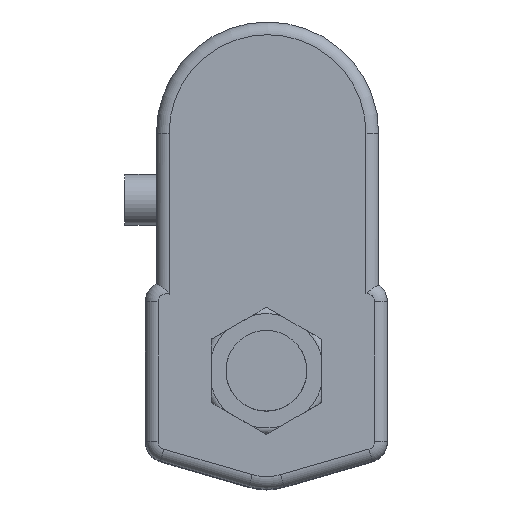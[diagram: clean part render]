
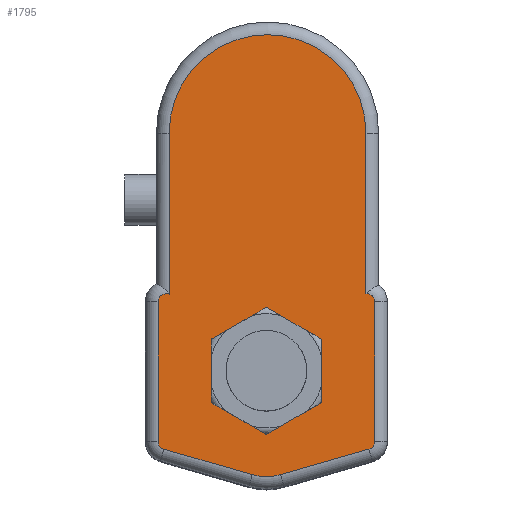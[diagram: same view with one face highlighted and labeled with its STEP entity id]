
A CAD part, top view. The second image highlights one B-rep face of the part: STEP entity #1795.
In plain terms, the highlighted planar face has unit normal (0, 0, 1).
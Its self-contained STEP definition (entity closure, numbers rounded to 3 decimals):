
#1 = CARTESIAN_POINT ( 'NONE',  ( 31.6, -22.211, 127.9 ) ) ;
#2 = DIRECTION ( 'NONE',  ( 1., 0., 0. ) ) ;
#6 = CARTESIAN_POINT ( 'NONE',  ( -31.6, 21.81, 127.9 ) ) ;
#12 = DIRECTION ( 'NONE',  ( 0., 0., 1. ) ) ;
#443 = FACE_BOUND ( 'NONE', #1899, .T. ) ;
#448 = FACE_OUTER_BOUND ( 'NONE', #1935, .T. ) ;
#604 = AXIS2_PLACEMENT_3D ( 'NONE', #2590, #2591, #2592 ) ;
#637 = AXIS2_PLACEMENT_3D ( 'NONE', #2884, #2891, #2892 ) ;
#651 = AXIS2_PLACEMENT_3D ( 'NONE', #6, #12, #2 ) ;
#652 = AXIS2_PLACEMENT_3D ( 'NONE', #2943, #2987, #2986 ) ;
#656 = AXIS2_PLACEMENT_3D ( 'NONE', #1, #2995, #2996 ) ;
#657 = AXIS2_PLACEMENT_3D ( 'NONE', #2991, #2998, #2999 ) ;
#832 = AXIS2_PLACEMENT_3D ( 'NONE', #3834, #3850, #3851 ) ;
#842 = ORIENTED_EDGE ( 'NONE', *, *, #1607, .T. ) ;
#843 = ORIENTED_EDGE ( 'NONE', *, *, #1577, .T. ) ;
#844 = ORIENTED_EDGE ( 'NONE', *, *, #1606, .T. ) ;
#845 = ORIENTED_EDGE ( 'NONE', *, *, #1513, .T. ) ;
#846 = ORIENTED_EDGE ( 'NONE', *, *, #1567, .T. ) ;
#847 = ORIENTED_EDGE ( 'NONE', *, *, #1522, .T. ) ;
#848 = ORIENTED_EDGE ( 'NONE', *, *, #1602, .T. ) ;
#849 = ORIENTED_EDGE ( 'NONE', *, *, #1608, .T. ) ;
#850 = ORIENTED_EDGE ( 'NONE', *, *, #1552, .F. ) ;
#851 = ORIENTED_EDGE ( 'NONE', *, *, #1597, .F. ) ;
#852 = ORIENTED_EDGE ( 'NONE', *, *, #1599, .F. ) ;
#853 = ORIENTED_EDGE ( 'NONE', *, *, #1576, .F. ) ;
#854 = ORIENTED_EDGE ( 'NONE', *, *, #1613, .F. ) ;
#855 = ORIENTED_EDGE ( 'NONE', *, *, #1583, .F. ) ;
#1121 = ORIENTED_EDGE ( 'NONE', *, *, #1595, .T. ) ;
#1122 = ORIENTED_EDGE ( 'NONE', *, *, #1544, .T. ) ;
#1123 = ORIENTED_EDGE ( 'NONE', *, *, #1519, .T. ) ;
#1233 = VECTOR ( 'NONE', #2576, 1000. ) ;
#1245 = LINE ( 'NONE', #2575, #1233 ) ;
#1264 = LINE ( 'NONE', #2599, #1270 ) ;
#1266 = CIRCLE ( 'NONE', #604, 2.5 ) ;
#1270 = VECTOR ( 'NONE', #2600, 1000. ) ;
#1286 = LINE ( 'NONE', #2708, #1287 ) ;
#1287 = VECTOR ( 'NONE', #2709, 1000. ) ;
#1294 = VECTOR ( 'NONE', #2735, 1000. ) ;
#1295 = LINE ( 'NONE', #2754, #1312 ) ;
#1302 = LINE ( 'NONE', #2712, #1294 ) ;
#1312 = VECTOR ( 'NONE', #2755, 1000. ) ;
#1329 = CIRCLE ( 'NONE', #637, 2.5 ) ;
#1332 = LINE ( 'NONE', #2918, #1342 ) ;
#1338 = LINE ( 'NONE', #2915, #1339 ) ;
#1339 = VECTOR ( 'NONE', #2916, 1000. ) ;
#1341 = LINE ( 'NONE', #2934, #1350 ) ;
#1342 = VECTOR ( 'NONE', #2919, 1000. ) ;
#1350 = VECTOR ( 'NONE', #2935, 1000. ) ;
#1370 = LINE ( 'NONE', #2956, #1376 ) ;
#1371 = CIRCLE ( 'NONE', #651, 2.5 ) ;
#1372 = LINE ( 'NONE', #1800, #1373 ) ;
#1373 = VECTOR ( 'NONE', #1801, 1000. ) ;
#1376 = VECTOR ( 'NONE', #1804, 1000. ) ;
#1381 = LINE ( 'NONE', #3000, #1385 ) ;
#1382 = CIRCLE ( 'NONE', #652, 31. ) ;
#1385 = VECTOR ( 'NONE', #3001, 1000. ) ;
#1386 = CIRCLE ( 'NONE', #656, 2.5 ) ;
#1387 = LINE ( 'NONE', #3014, #1392 ) ;
#1388 = CIRCLE ( 'NONE', #657, 16. ) ;
#1392 = VECTOR ( 'NONE', #3015, 1000. ) ;
#1513 = EDGE_CURVE ( 'NONE', #2125, #2190, #1245, .T. ) ;
#1519 = EDGE_CURVE ( 'NONE', #2175, #2161, #1266, .T. ) ;
#1522 = EDGE_CURVE ( 'NONE', #2192, #2137, #1264, .T. ) ;
#1534 = EDGE_CURVE ( 'NONE', #2161, #2201, #1286, .T. ) ;
#1544 = EDGE_CURVE ( 'NONE', #2189, #2175, #1302, .T. ) ;
#1552 = EDGE_CURVE ( 'NONE', #2130, #2150, #1295, .T. ) ;
#1567 = EDGE_CURVE ( 'NONE', #2190, #2192, #1329, .T. ) ;
#1576 = EDGE_CURVE ( 'NONE', #2195, #2122, #1338, .T. ) ;
#1577 = EDGE_CURVE ( 'NONE', #2174, #2185, #1332, .T. ) ;
#1583 = EDGE_CURVE ( 'NONE', #2150, #2184, #1341, .T. ) ;
#1595 = EDGE_CURVE ( 'NONE', #2140, #2189, #1371, .T. ) ;
#1597 = EDGE_CURVE ( 'NONE', #2110, #2130, #1372, .T. ) ;
#1599 = EDGE_CURVE ( 'NONE', #2122, #2110, #1370, .T. ) ;
#1602 = EDGE_CURVE ( 'NONE', #2137, #2155, #1382, .T. ) ;
#1606 = EDGE_CURVE ( 'NONE', #2185, #2125, #1386, .T. ) ;
#1607 = EDGE_CURVE ( 'NONE', #2201, #2174, #1388, .T. ) ;
#1608 = EDGE_CURVE ( 'NONE', #2155, #2140, #1381, .T. ) ;
#1613 = EDGE_CURVE ( 'NONE', #2184, #2195, #1387, .T. ) ;
#1795 = ADVANCED_FACE ( 'NONE', ( #448, #443 ), #3849, .T. ) ;
#1800 = CARTESIAN_POINT ( 'NONE',  ( 0., -20., 127.9 ) ) ;
#1801 = DIRECTION ( 'NONE',  ( 0.866, 0.5, 0. ) ) ;
#1804 = DIRECTION ( 'NONE',  ( 0.866, -0.5, 0. ) ) ;
#1899 = EDGE_LOOP ( 'NONE', ( #850, #851, #852, #853, #854, #855 ) ) ;
#1935 = EDGE_LOOP ( 'NONE', ( #1121, #1122, #1123, #2108, #842, #843, #844, #845, #846, #847, #848, #849 ) ) ;
#2108 = ORIENTED_EDGE ( 'NONE', *, *, #1534, .T. ) ;
#2110 = VERTEX_POINT ( 'NONE', #3883 ) ;
#2122 = VERTEX_POINT ( 'NONE', #3886 ) ;
#2125 = VERTEX_POINT ( 'NONE', #3888 ) ;
#2130 = VERTEX_POINT ( 'NONE', #3892 ) ;
#2137 = VERTEX_POINT ( 'NONE', #3898 ) ;
#2140 = VERTEX_POINT ( 'NONE', #3901 ) ;
#2150 = VERTEX_POINT ( 'NONE', #3905 ) ;
#2155 = VERTEX_POINT ( 'NONE', #3910 ) ;
#2161 = VERTEX_POINT ( 'NONE', #3916 ) ;
#2174 = VERTEX_POINT ( 'NONE', #3929 ) ;
#2175 = VERTEX_POINT ( 'NONE', #3930 ) ;
#2184 = VERTEX_POINT ( 'NONE', #3939 ) ;
#2185 = VERTEX_POINT ( 'NONE', #3940 ) ;
#2189 = VERTEX_POINT ( 'NONE', #3944 ) ;
#2190 = VERTEX_POINT ( 'NONE', #3945 ) ;
#2192 = VERTEX_POINT ( 'NONE', #3947 ) ;
#2195 = VERTEX_POINT ( 'NONE', #3950 ) ;
#2201 = VERTEX_POINT ( 'NONE', #3955 ) ;
#2575 = CARTESIAN_POINT ( 'NONE',  ( 34.1, 21.81, 127.9 ) ) ;
#2576 = DIRECTION ( 'NONE',  ( 0., 1., 0. ) ) ;
#2590 = CARTESIAN_POINT ( 'NONE',  ( -31.6, -22.211, 127.9 ) ) ;
#2591 = DIRECTION ( 'NONE',  ( 0., 0., 1. ) ) ;
#2592 = DIRECTION ( 'NONE',  ( 1., 0., 0. ) ) ;
#2599 = CARTESIAN_POINT ( 'NONE',  ( 31.376, 21.81, 127.9 ) ) ;
#2600 = DIRECTION ( 'NONE',  ( 0., 1., 0. ) ) ;
#2708 = CARTESIAN_POINT ( 'NONE',  ( 14.312, -38.069, 127.9 ) ) ;
#2709 = DIRECTION ( 'NONE',  ( 0.961, -0.277, 0. ) ) ;
#2712 = CARTESIAN_POINT ( 'NONE',  ( -34.1, 21.81, 127.9 ) ) ;
#2735 = DIRECTION ( 'NONE',  ( 0., -1., 0. ) ) ;
#2754 = CARTESIAN_POINT ( 'NONE',  ( 17.321, -10., 127.9 ) ) ;
#2755 = DIRECTION ( 'NONE',  ( 0., 1., 0. ) ) ;
#2884 = CARTESIAN_POINT ( 'NONE',  ( 31.6, 21.81, 127.9 ) ) ;
#2891 = DIRECTION ( 'NONE',  ( 0., 0., 1. ) ) ;
#2892 = DIRECTION ( 'NONE',  ( 1., 0., 0. ) ) ;
#2915 = CARTESIAN_POINT ( 'NONE',  ( -17.321, 10., 127.9 ) ) ;
#2916 = DIRECTION ( 'NONE',  ( 0., -1., 0. ) ) ;
#2918 = CARTESIAN_POINT ( 'NONE',  ( 44.025, -21.226, 127.9 ) ) ;
#2919 = DIRECTION ( 'NONE',  ( 0.961, 0.277, 0. ) ) ;
#2934 = CARTESIAN_POINT ( 'NONE',  ( 17.321, 10., 127.9 ) ) ;
#2935 = DIRECTION ( 'NONE',  ( -0.866, 0.5, 0. ) ) ;
#2943 = CARTESIAN_POINT ( 'NONE',  ( 0.376, 74.902, 127.9 ) ) ;
#2956 = CARTESIAN_POINT ( 'NONE',  ( -17.321, -10., 127.9 ) ) ;
#2986 = DIRECTION ( 'NONE',  ( 1., 0., 0. ) ) ;
#2987 = DIRECTION ( 'NONE',  ( 0., 0., 1. ) ) ;
#2991 = CARTESIAN_POINT ( 'NONE',  ( 0., -17.283, 127.9 ) ) ;
#2995 = DIRECTION ( 'NONE',  ( 0., 0., 1. ) ) ;
#2996 = DIRECTION ( 'NONE',  ( 1., 0., 0. ) ) ;
#2998 = DIRECTION ( 'NONE',  ( 0., 0., 1. ) ) ;
#2999 = DIRECTION ( 'NONE',  ( 1., 0., 0. ) ) ;
#3000 = CARTESIAN_POINT ( 'NONE',  ( -30.624, 21.81, 127.9 ) ) ;
#3001 = DIRECTION ( 'NONE',  ( 0., -1., 0. ) ) ;
#3014 = CARTESIAN_POINT ( 'NONE',  ( 0., 20., 127.9 ) ) ;
#3015 = DIRECTION ( 'NONE',  ( -0.866, -0.5, 0. ) ) ;
#3834 = CARTESIAN_POINT ( 'NONE',  ( 31.6, 21.81, 127.9 ) ) ;
#3849 = PLANE ( 'NONE',  #832 ) ;
#3850 = DIRECTION ( 'NONE',  ( 0., 0., 1. ) ) ;
#3851 = DIRECTION ( 'NONE',  ( 1., 0., 0. ) ) ;
#3883 = CARTESIAN_POINT ( 'NONE',  ( 0., -20., 127.9 ) ) ;
#3886 = CARTESIAN_POINT ( 'NONE',  ( -17.321, -10., 127.9 ) ) ;
#3888 = CARTESIAN_POINT ( 'NONE',  ( 34.1, -22.211, 127.9 ) ) ;
#3892 = CARTESIAN_POINT ( 'NONE',  ( 17.321, -10., 127.9 ) ) ;
#3898 = CARTESIAN_POINT ( 'NONE',  ( 31.376, 74.902, 127.9 ) ) ;
#3901 = CARTESIAN_POINT ( 'NONE',  ( -30.624, 24.111, 127.9 ) ) ;
#3905 = CARTESIAN_POINT ( 'NONE',  ( 17.321, 10., 127.9 ) ) ;
#3910 = CARTESIAN_POINT ( 'NONE',  ( -30.624, 74.902, 127.9 ) ) ;
#3916 = CARTESIAN_POINT ( 'NONE',  ( -32.293, -24.613, 127.9 ) ) ;
#3929 = CARTESIAN_POINT ( 'NONE',  ( 4.438, -32.655, 127.9 ) ) ;
#3930 = CARTESIAN_POINT ( 'NONE',  ( -34.1, -22.211, 127.9 ) ) ;
#3939 = CARTESIAN_POINT ( 'NONE',  ( 0., 20., 127.9 ) ) ;
#3940 = CARTESIAN_POINT ( 'NONE',  ( 32.293, -24.613, 127.9 ) ) ;
#3944 = CARTESIAN_POINT ( 'NONE',  ( -34.1, 21.81, 127.9 ) ) ;
#3945 = CARTESIAN_POINT ( 'NONE',  ( 34.1, 21.81, 127.9 ) ) ;
#3947 = CARTESIAN_POINT ( 'NONE',  ( 31.376, 24.299, 127.9 ) ) ;
#3950 = CARTESIAN_POINT ( 'NONE',  ( -17.321, 10., 127.9 ) ) ;
#3955 = CARTESIAN_POINT ( 'NONE',  ( -4.438, -32.655, 127.9 ) ) ;
